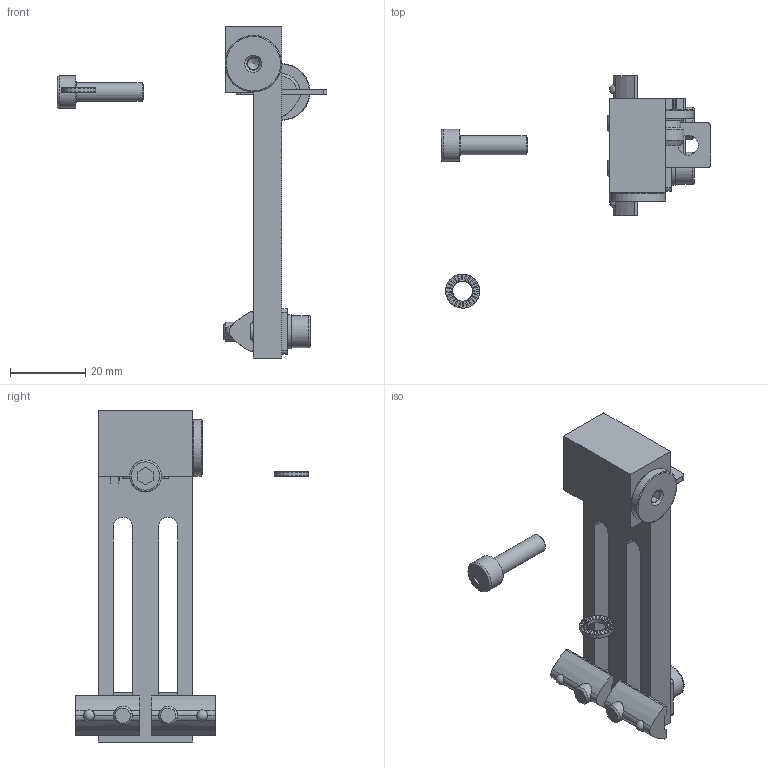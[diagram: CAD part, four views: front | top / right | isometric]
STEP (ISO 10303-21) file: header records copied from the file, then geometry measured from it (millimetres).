
FILE_DESCRIPTION( ( 'STEP AP214' ), '1' );
FILE_NAME( 'C:/Users/Segreteria/Desktop/CA.WLS.18.18.6.stp', '2014-07-07T06:02:16', ( ' ' ), ( ' ' ), 'XStep 1.0', ' ', ' ' );
FILE_SCHEMA( ( 'CONFIG_CONTROL_DESIGN) ( )' ) );
Length unit declared in the file: metre
Products named in the file (9): Assem1; Assem2; CA.08.14.014; WLS.18.18; R.05.12; R.5.SCH; CA.02.05.005; V-tcei M  5 x 18
Bounding box: 71.5 x 61.64 x 88 mm (x, y, z)
Volume: 49596.8 mm3; surface area: 31581.6 mm2
Topology: 15 solids, 18 shells, 912 faces, 2575 edges, 1692 vertices
Faces by surface type: plane 769, cylinder 107, cone 22, torus 11, sphere 3
Full cylindrical faces by diameter (mm): 3.1 x3, 5 x7, 5.3 x7, 8.2 x3, 8.5 x4, 8.566 x6, 9 x3, 9.728 x3, 15 x3
Entity records: 10870 total; most frequent: CARTESIAN_POINT 1919, DIRECTION 1763, ORIENTED_EDGE 1696, EDGE_CURVE 848, AXIS2_PLACEMENT_3D 614, VERTEX_POINT 574, LINE 535, VECTOR 535
